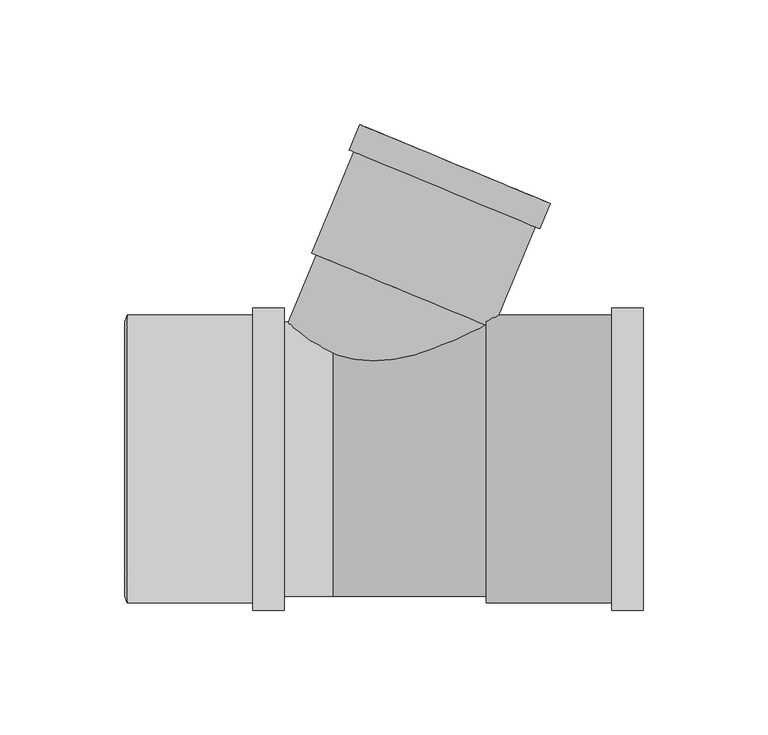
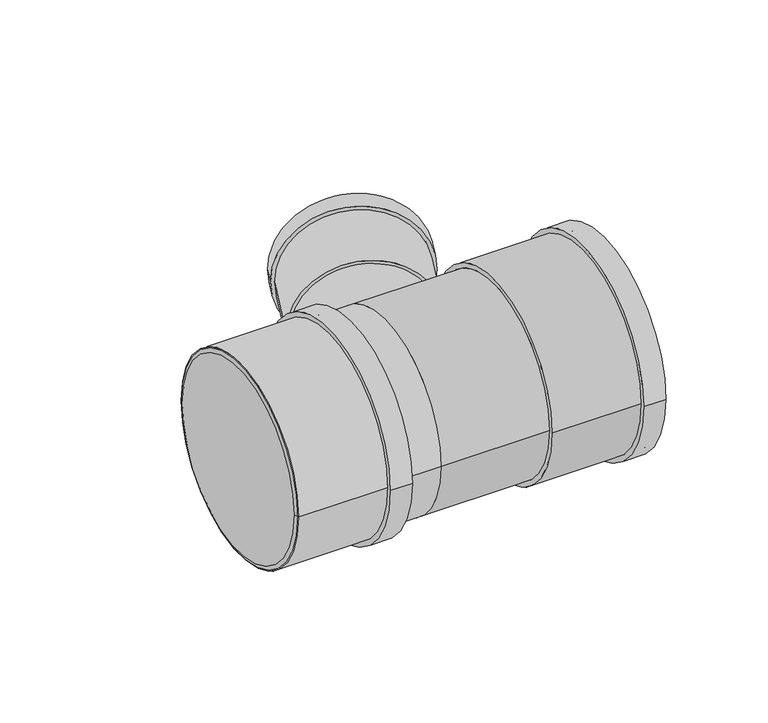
"""IFC4 building model written with IfcOpenShell, lengths in millimetres: pipe fitting geometry, Superdrain HTEA Branch : Superdrain HTEA Branch."""

from ifc_helpers import new_model, si_unit, point, frame, origin, origin_2d, place, context, project, spatial, polyline, circle_curve, trimmed, segment, composite_curve, outline, extrude, source, transform, mapped, element, save
from ifc_brep_helpers import plane_surface, revolved_surface, advanced_brep


def pipe_fitting_351803b2(model_context):
    return source(origin(), model_context, "Body", "SolidModel", [
        extrude(outline(composite_curve([segment(trimmed(circle_curve(origin_2d(), 57.75), [point((57.75, 0.0))], [point((-57.75, 0.0))], False, "CARTESIAN"), True, "CONTINUOUS"), segment(trimmed(circle_curve(origin_2d(), 57.75), [point((-57.75, 0.0))], [point((57.75, 0.0))], False, "CARTESIAN"), True, "CONTINUOUS")], self_intersect=False), holes=[composite_curve([segment(trimmed(circle_curve(origin_2d(), 55.0), [point((55.0, 0.0))], [point((-55.0, 0.0))], True, "CARTESIAN"), True, "CONTINUOUS"), segment(trimmed(circle_curve(origin_2d(), 55.0), [point((-55.0, 0.0))], [point((55.0, 0.0))], True, "CARTESIAN"), True, "CONTINUOUS")], self_intersect=False)]), frame((-82.4, 0.0, 0.0), z_axis=(1.0, 0.0, 0.0), x_axis=(0.0, 1.0, 0.0)), (0.0, 0.0, 1.0), 63.0),
        extrude(outline(composite_curve([segment(trimmed(circle_curve(origin_2d(), 60.6375), [point((60.6375, 0.0))], [point((-60.6375, 0.0))], False, "CARTESIAN"), True, "CONTINUOUS"), segment(trimmed(circle_curve(origin_2d(), 60.6375), [point((-60.6375, 0.0))], [point((60.6375, 0.0))], False, "CARTESIAN"), True, "CONTINUOUS")], self_intersect=False), holes=[composite_curve([segment(trimmed(circle_curve(origin_2d(), 55.0), [point((55.0, 0.0))], [point((-55.0, 0.0))], True, "CARTESIAN"), True, "CONTINUOUS"), segment(trimmed(circle_curve(origin_2d(), 55.0), [point((-55.0, 0.0))], [point((55.0, 0.0))], True, "CARTESIAN"), True, "CONTINUOUS")], self_intersect=False)]), frame((-32.0, 0.0, 0.0), z_axis=(1.0, 0.0, 0.0), x_axis=(0.0, 1.0, 0.0)), (0.0, 0.0, 1.0), 12.6),
        advanced_brep(
        [(-83.4, 55.0, 0.0), (-83.4, -55.0, 0.0), (-82.4, 57.75, 0.0), (-82.4, -57.75, 0.0)],
        [
            (0, 1, circle_curve(frame((-83.4, 0.0, 0.0), z_axis=(-1.0, 0.0, 0.0), x_axis=(0.0, 1.0000000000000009, 0.0)), 55.0)),
            (1, 0, circle_curve(frame((-83.4, 0.0, 0.0), z_axis=(-1.0, 0.0, 0.0), x_axis=(0.0, -1.0000000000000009, 0.0)), 55.0)),
            (2, 3, circle_curve(frame((-82.4, 0.0, 0.0), z_axis=(1.0, 0.0, 0.0), x_axis=(0.0, -1.0000000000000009, 0.0)), 57.75)),
            (3, 2, circle_curve(frame((-82.4, 0.0, 0.0), z_axis=(1.0, 0.0, 0.0), x_axis=(0.0, 1.0000000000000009, 0.0)), 57.75)),
            (3, 1),
            (0, 2),
        ],
        [
            plane_surface(frame((-83.4, 0.0, 0.0), z_axis=(-1.0, 0.0, 0.0), x_axis=(0.0, 0.0, -1.0))),
            plane_surface(frame((-82.4, 0.0, 0.0), z_axis=(1.0, 0.0, 0.0), x_axis=(0.0, 0.0, -1.0))),
            revolved_surface(polyline([(-83.4, 54.99999999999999, 0.0), (-82.4, 57.75, 0.0)]), (-103.4, 0.0, 0.0), (1.0000000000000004, 0.0, 0.0)),
            revolved_surface(polyline([(-83.4, -54.99999999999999, 0.0), (-82.4, -57.75, 0.0)]), (-103.4, 0.0, 0.0), (1.0000000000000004, 0.0, 0.0)),
        ],
        [
            (0, [[1, 2]]),
            (1, [[3, 4]]),
            (2, [[-4, 5, -1, 6]]),
            (3, [[-3, -6, -2, -5]]),
        ],
    ),
        extrude(outline(composite_curve([segment(trimmed(circle_curve(origin_2d(), 57.75), [point((-57.75, 0.0))], [point((57.75, 0.0))], False, "CARTESIAN"), True, "CONTINUOUS"), segment(trimmed(circle_curve(origin_2d(), 57.75), [point((57.75, 0.0))], [point((-57.75, 0.0))], False, "CARTESIAN"), True, "CONTINUOUS")], self_intersect=False), holes=[composite_curve([segment(trimmed(circle_curve(origin_2d(), 55.0), [point((55.0, 0.0))], [point((-55.0, 0.0))], True, "CARTESIAN"), True, "CONTINUOUS"), segment(trimmed(circle_curve(origin_2d(), 55.0), [point((-55.0, 0.0))], [point((55.0, 0.0))], True, "CARTESIAN"), True, "CONTINUOUS")], self_intersect=False)]), frame((61.6, 0.0, 0.0), z_axis=(1.0, 0.0, 0.0), x_axis=(0.0, 1.0, 0.0)), (0.0, 0.0, 1.0), 63.0),
        extrude(outline(composite_curve([segment(trimmed(circle_curve(origin_2d(), 60.6375), [point((60.6375, 0.0))], [point((-60.6375, 0.0))], False, "CARTESIAN"), True, "CONTINUOUS"), segment(trimmed(circle_curve(origin_2d(), 60.6375), [point((-60.6375, 0.0))], [point((60.6375, 0.0))], False, "CARTESIAN"), True, "CONTINUOUS")], self_intersect=False), holes=[composite_curve([segment(trimmed(circle_curve(origin_2d(), 55.0), [point((55.0, 0.0))], [point((-55.0, 0.0))], True, "CARTESIAN"), True, "CONTINUOUS"), segment(trimmed(circle_curve(origin_2d(), 55.0), [point((-55.0, 0.0))], [point((55.0, 0.0))], True, "CARTESIAN"), True, "CONTINUOUS")], self_intersect=False)]), frame((112.0, 0.0, 0.0), z_axis=(1.0, 0.0, 0.0), x_axis=(0.0, 1.0, 0.0)), (0.0, 0.0, 1.0), 12.6),
        extrude(outline(composite_curve([segment(trimmed(circle_curve(origin_2d(), 37.5), [point((0.0, 37.5))], [point((0.0, -37.5))], False, "CARTESIAN"), True, "CONTINUOUS"), segment(trimmed(circle_curve(origin_2d(), 37.5), [point((0.0, -37.5))], [point((0.0, 37.5))], False, "CARTESIAN"), True, "CONTINUOUS")], self_intersect=False)), frame((0.0, 0.0, 0.0), z_axis=(0.3826834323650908, 0.9238795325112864, 0.0), x_axis=(0.0, 0.0, 1.0)), (0.0, 0.0, 1.0), 73.2),
        extrude(outline(composite_curve([segment(trimmed(circle_curve(origin_2d(), 55.0), [point((55.0, 0.0))], [point((-55.0, 0.0))], False, "CARTESIAN"), True, "CONTINUOUS"), segment(trimmed(circle_curve(origin_2d(), 55.0), [point((-55.0, 0.0))], [point((55.0, 0.0))], False, "CARTESIAN"), True, "CONTINUOUS")], self_intersect=False)), frame((-82.4, 0.0, 0.0), z_axis=(1.0, 0.0, 0.0), x_axis=(0.0, 1.0, 0.0)), (0.0, 0.0, 1.0), 82.4),
        extrude(outline(composite_curve([segment(trimmed(circle_curve(origin_2d(), 55.0), [point((-55.0, 0.0))], [point((55.0, 0.0))], False, "CARTESIAN"), True, "CONTINUOUS"), segment(trimmed(circle_curve(origin_2d(), 55.0), [point((55.0, 0.0))], [point((-55.0, 0.0))], False, "CARTESIAN"), True, "CONTINUOUS")], self_intersect=False)), frame((0.0, 0.0, 0.0), z_axis=(1.0, 0.0, 0.0), x_axis=(0.0, 1.0, 0.0)), (0.0, 0.0, 1.0), 61.6),
        extrude(outline(composite_curve([segment(trimmed(circle_curve(origin_2d(), 41.34375), [point((0.0, 41.34375))], [point((0.0, -41.34375))], False, "CARTESIAN"), True, "CONTINUOUS"), segment(trimmed(circle_curve(origin_2d(), 41.34375), [point((0.0, -41.34375))], [point((0.0, 41.34375))], False, "CARTESIAN"), True, "CONTINUOUS")], self_intersect=False), holes=[composite_curve([segment(trimmed(circle_curve(origin_2d(), 37.5), [point((0.0, 37.4999999))], [point((0.0, -37.5))], True, "CARTESIAN"), True, "CONTINUOUS"), segment(trimmed(circle_curve(origin_2d(), 37.5), [point((0.0, -37.5))], [point((0.0, 37.4999999))], True, "CARTESIAN"), True, "CONTINUOUS")], self_intersect=False)]), frame((44.8504983, 108.2786812, 0.0), z_axis=(0.382683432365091, 0.9238795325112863, 0.0), x_axis=(0.0, 0.0, 1.0)), (0.0, 0.0, 1.0), 11.0),
        extrude(outline(composite_curve([segment(trimmed(circle_curve(origin_2d(), 39.375), [point((0.0, 39.375))], [point((0.0, -39.3749999))], False, "CARTESIAN"), True, "CONTINUOUS"), segment(trimmed(circle_curve(origin_2d(), 39.375), [point((0.0, -39.3749999))], [point((0.0, 39.375))], False, "CARTESIAN"), True, "CONTINUOUS")], self_intersect=False), holes=[composite_curve([segment(trimmed(circle_curve(origin_2d(), 37.5), [point((0.0, 37.5))], [point((0.0, -37.4999999))], True, "CARTESIAN"), True, "CONTINUOUS"), segment(trimmed(circle_curve(origin_2d(), 37.5), [point((0.0, -37.4999999))], [point((0.0, 37.5))], True, "CARTESIAN"), True, "CONTINUOUS")], self_intersect=False)]), frame((28.0124272, 67.6279818, 0.0), z_axis=(0.38268343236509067, 0.9238795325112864, 0.0), x_axis=(0.0, 0.0, 1.0)), (0.0, 0.0, 1.0), 55.0),
    ])


if __name__ == "__main__":
    model = new_model("IFC4")
    model_context = context("Model", 3, world=origin())
    ifc_project = project(units=[si_unit("LENGTHUNIT", "METRE", prefix="MILLI")], contexts=[model_context])
    site = spatial("IfcSite", under=ifc_project)
    building = spatial("IfcBuilding", under=site)
    placement = place(None, origin())
    pipe_fitting_shape = pipe_fitting_351803b2(model_context)
    element("IfcPipeFitting", 1, ObjectType="Superdrain HTEA Branch : Superdrain HTEA Branch", at=placement, inside=building, context=model_context, shape_type="MappedRepresentation", body=[
        mapped(pipe_fitting_shape, transform((0.0, 0.0, 0.0), x_axis=(1.0, 0.0, 0.0), y_axis=(0.0, 1.0, 0.0), z_axis=(0.0, 0.0, 1.0))),
    ])
    save(model, "model.ifc")
